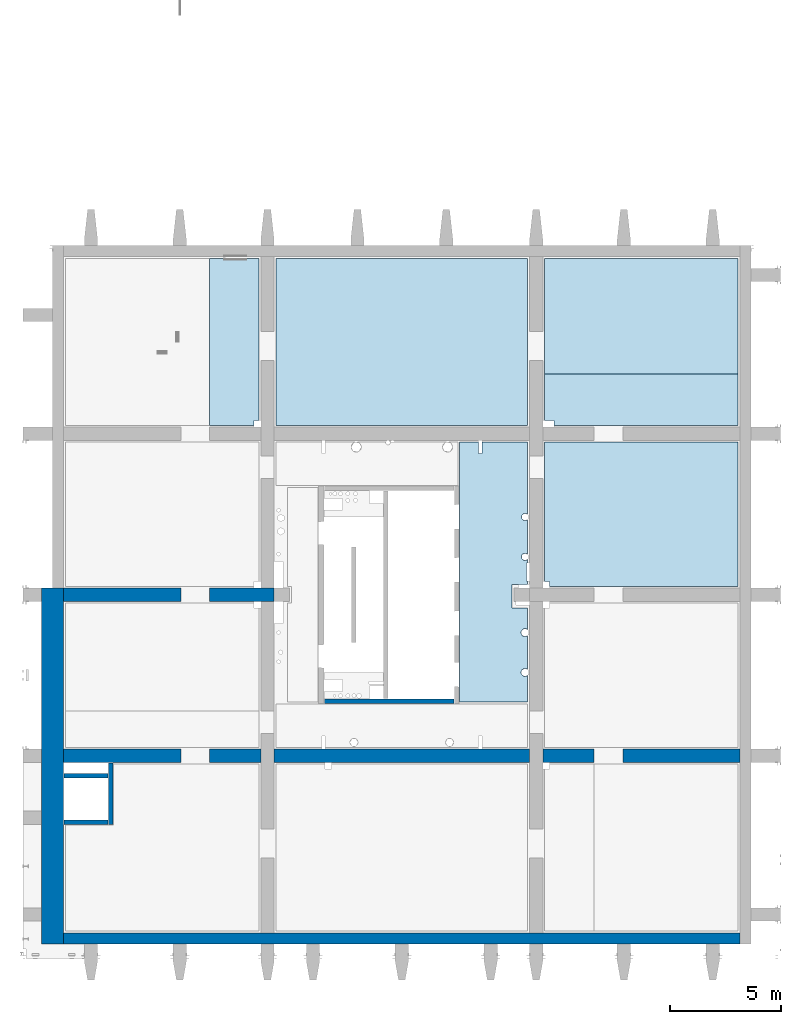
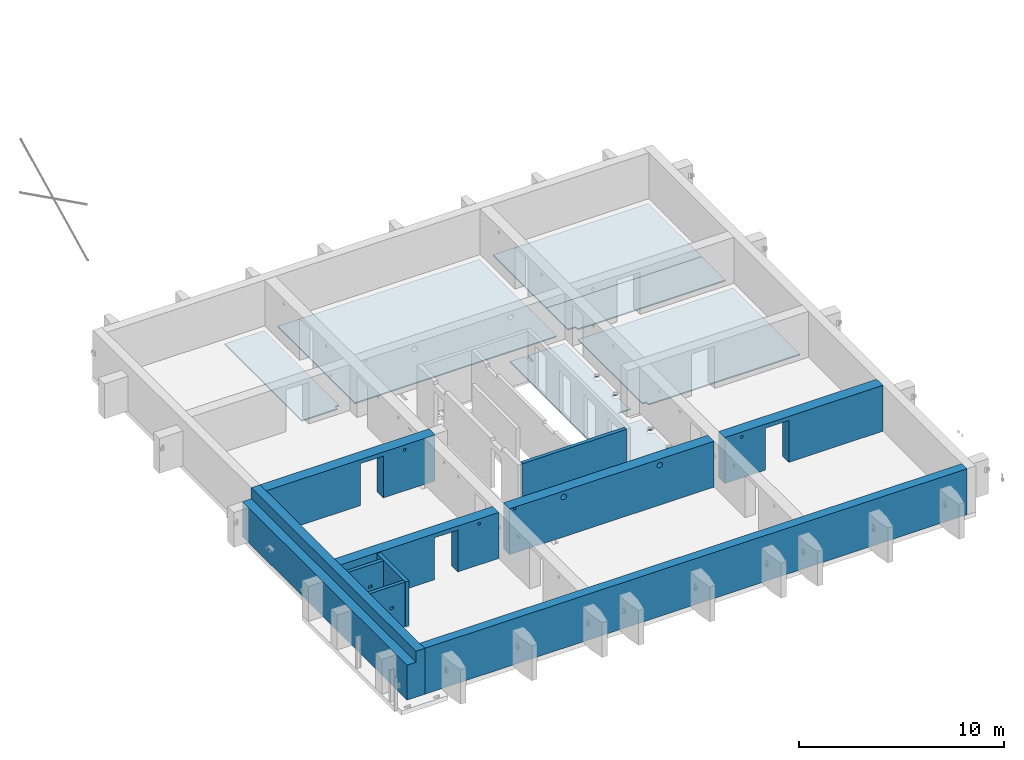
# One storey, part 18 of 22: 8 walls, 6 slabs, 48 openings.
"""IFC2X3 building model written with IfcOpenShell, lengths in millimetres."""

from ifc_helpers import new_model, entity, si_unit, converted_unit, derived_unit, direction, frame, frame_2d, origin, origin_2d_with_axis, place, context, subcontext, project, spatial, polyline, rectangle, circle, outline, extrude, material, layer, layer_set, layer_usage, type_object, element, save


model = new_model("IFC2X3")

# Units and contexts
model_context = context("Model", 3, precision=0.01, world=origin(), true_north=direction((6.12303176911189e-17, 1.0)))
body_context = subcontext(model_context, "Body", "Model", "MODEL_VIEW")
ifc_project = project(units=[si_unit("LENGTHUNIT", "METRE", prefix="MILLI"), si_unit("AREAUNIT", "SQUARE_METRE"), si_unit("VOLUMEUNIT", "CUBIC_METRE"), converted_unit("PLANEANGLEUNIT", "DEGREE", entity("IfcRatioMeasure", 0.0174532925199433), si_unit("PLANEANGLEUNIT", "RADIAN"), dimensions=[0, 0, 0, 0, 0, 0, 0]), si_unit("MASSUNIT", "GRAM", prefix="KILO"), derived_unit("MASSDENSITYUNIT", [(si_unit("MASSUNIT", "GRAM", prefix="KILO"), 1), (si_unit("LENGTHUNIT", "METRE"), -3)]), si_unit("TIMEUNIT", "SECOND"), si_unit("FREQUENCYUNIT", "HERTZ"), si_unit("THERMODYNAMICTEMPERATUREUNIT", "DEGREE_CELSIUS"), derived_unit("THERMALTRANSMITTANCEUNIT", [(si_unit("MASSUNIT", "GRAM", prefix="KILO"), 1), (si_unit("THERMODYNAMICTEMPERATUREUNIT", "KELVIN"), -1), (si_unit("TIMEUNIT", "SECOND"), -3)]), derived_unit("VOLUMETRICFLOWRATEUNIT", [(si_unit("LENGTHUNIT", "METRE"), 3), (si_unit("TIMEUNIT", "SECOND"), -1)]), si_unit("ELECTRICCURRENTUNIT", "AMPERE"), si_unit("ELECTRICVOLTAGEUNIT", "VOLT"), si_unit("POWERUNIT", "WATT"), si_unit("FORCEUNIT", "NEWTON", prefix="KILO"), si_unit("ILLUMINANCEUNIT", "LUX"), si_unit("LUMINOUSFLUXUNIT", "LUMEN"), si_unit("LUMINOUSINTENSITYUNIT", "CANDELA"), derived_unit("USERDEFINED", [(si_unit("MASSUNIT", "GRAM", prefix="KILO"), -1), (si_unit("LENGTHUNIT", "METRE"), -2), (si_unit("TIMEUNIT", "SECOND"), 3), (si_unit("LUMINOUSFLUXUNIT", "LUMEN"), 1)]), derived_unit("LINEARVELOCITYUNIT", [(si_unit("LENGTHUNIT", "METRE"), 1), (si_unit("TIMEUNIT", "SECOND"), -1)]), si_unit("PRESSUREUNIT", "PASCAL"), derived_unit("USERDEFINED", [(si_unit("LENGTHUNIT", "METRE"), -2), (si_unit("MASSUNIT", "GRAM", prefix="KILO"), 1), (si_unit("TIMEUNIT", "SECOND"), -2)])], contexts=[model_context])

# Site, building, storey
site_placement = place(None, origin())
site = spatial("IfcSite", under=ifc_project, at=site_placement, Name="Default", CompositionType="ELEMENT")
building_placement = place(site_placement, origin())
building = spatial("IfcBuilding", under=site, at=building_placement, Name="niet gebruiken", CompositionType="ELEMENT")
storey_placement = place(building_placement, frame((0.0, 0.0, 15000.0)))
storey = spatial("IfcBuildingStorey", under=building, at=storey_placement, Name="04 vierde verdieping", CompositionType="ELEMENT", Elevation=15000.0)

# Slab, openings
ifc_material_1 = material(Name="NLRS_f2_beton prefab")
ifc_layer_1 = layer(ifc_material_1, 70.0)
ifc_layer_set_1 = layer_set([ifc_layer_1], Name="Floor:NLRS_23.21_FL_breedplaat d=70_gen")
ifc_layer_usage_1 = layer_usage(ifc_layer_set_1, "AXIS3", "POSITIVE", 0.0)
slab_1_placement = place(storey_placement, frame((133100.0, 25130.0, -360.0)))
slab_1 = element("IfcSlab", 1, at=slab_1_placement, inside=storey, material=ifc_layer_usage_1, Name="Floor:NLRS_23.21_FL_breedplaat d=70_gen", ObjectType="Floor:NLRS_23.21_FL_breedplaat d=70_gen", PredefinedType="FLOOR", context=body_context, shape_type="SweptSolid", body=[
    extrude(rectangle(XDim=7520.00000000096, YDim=2220.0, at=frame_2d((10790.0, 0.0), x_axis=(0.0, 1.0))), frame((11900.0, 3760.0, 70.0), z_axis=(0.0, 0.0, -1.0), x_axis=(-1.0, 0.0, 0.0)), (0.0, 0.0, 1.0), 69.9999999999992),
])
placement_1 = place(slab_1_placement, origin())
element("IfcOpeningElement", 2, at=placement_1, cuts=slab_1, ObjectType="Opening", context=body_context, shape_type="SweptSolid", body=[
    extrude(rectangle(XDim=300.000000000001, YDim=300.000000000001, at=origin_2d_with_axis()), frame((2150.0, 70.0, 0.0), z_axis=(0.0, 0.0, 1.0), x_axis=(0.0, 1.0, 0.0)), (0.0, 0.0, 1.0), 269.999999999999),
])
placement_2 = place(slab_1_placement, origin())
element("IfcOpeningElement", 3, at=placement_2, cuts=slab_1, ObjectType="Opening", context=body_context, shape_type="SweptSolid", body=[
    extrude(rectangle(XDim=269.999999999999, YDim=1200.0, at=origin_2d_with_axis()), frame((14700.0, 5355.0, 100.0), z_axis=(0.0, 0.0, 1.0), x_axis=(0.0, -1.0, 0.0)), (0.0, 0.0, 1.0), 100.000000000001),
])
placement_3 = place(slab_1_placement, origin())
element("IfcOpeningElement", 4, at=placement_3, cuts=slab_1, ObjectType="Opening", context=body_context, shape_type="SweptSolid", body=[
    extrude(rectangle(XDim=269.999999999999, YDim=1200.0, at=origin_2d_with_axis()), frame((2600.0, 4855.0, 100.0), z_axis=(0.0, 0.0, 1.0), x_axis=(0.0, -1.0, 0.0)), (0.0, 0.0, 1.0), 99.9999999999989),
])

slab_2_placement = place(storey_placement, frame((133100.0, 25130.0, -360.0)))
slab_2 = element("IfcSlab", 5, at=slab_2_placement, inside=storey, material=ifc_layer_usage_1, Name="Floor:NLRS_23.21_FL_breedplaat d=70_gen:2", ObjectType="Floor:NLRS_23.21_FL_breedplaat d=70_gen", PredefinedType="FLOOR", context=body_context, shape_type="SweptSolid", body=[
    extrude(rectangle(XDim=8719.99999999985, YDim=5210.00000000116, at=frame_2d((-7540.0, 1155.0), x_axis=(-1.0, 0.0))), frame((11900.0, 3760.0, 70.0), z_axis=(0.0, 0.0, -1.0), x_axis=(-1.0, 0.0, 0.0)), (0.0, 0.0, 1.0), 69.9999999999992),
])
element("IfcOpeningElement", 6, at=placement_1, cuts=slab_2, ObjectType="Opening", context=body_context, shape_type="SweptSolid", body=[
    extrude(rectangle(XDim=300.000000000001, YDim=300.000000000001, at=origin_2d_with_axis()), frame((2150.0, 70.0, 0.0), z_axis=(0.0, 0.0, 1.0), x_axis=(0.0, 1.0, 0.0)), (0.0, 0.0, 1.0), 269.999999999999),
])
element("IfcOpeningElement", 7, at=placement_2, cuts=slab_2, ObjectType="Opening", context=body_context, shape_type="SweptSolid", body=[
    extrude(rectangle(XDim=269.999999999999, YDim=1200.0, at=origin_2d_with_axis()), frame((14700.0, 5355.0, 100.0), z_axis=(0.0, 0.0, 1.0), x_axis=(0.0, -1.0, 0.0)), (0.0, 0.0, 1.0), 100.000000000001),
])
element("IfcOpeningElement", 8, at=placement_3, cuts=slab_2, ObjectType="Opening", context=body_context, shape_type="SweptSolid", body=[
    extrude(rectangle(XDim=269.999999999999, YDim=1200.0, at=origin_2d_with_axis()), frame((2600.0, 4855.0, 100.0), z_axis=(0.0, 0.0, 1.0), x_axis=(0.0, -1.0, 0.0)), (0.0, 0.0, 1.0), 99.9999999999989),
])

slab_3_placement = place(storey_placement, frame((133100.0, 25130.0, -360.0)))
slab_3 = element("IfcSlab", 9, at=slab_3_placement, inside=storey, material=ifc_layer_usage_1, Name="Floor:NLRS_23.21_FL_breedplaat d=70_gen:3", ObjectType="Floor:NLRS_23.21_FL_breedplaat d=70_gen", PredefinedType="FLOOR", context=body_context, shape_type="SweptSolid", body=[
    extrude(rectangle(XDim=11340.0000000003, YDim=7520.00000000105, at=frame_2d((3250.0, 0.0), x_axis=(1.0, 0.0))), frame((11900.0, 3760.0, 70.0), z_axis=(0.0, 0.0, -1.0), x_axis=(-1.0, 0.0, 0.0)), (0.0, 0.0, 1.0), 69.9999999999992),
])
element("IfcOpeningElement", 10, at=placement_1, cuts=slab_3, ObjectType="Opening", context=body_context, shape_type="SweptSolid", body=[
    extrude(rectangle(XDim=300.000000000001, YDim=300.000000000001, at=origin_2d_with_axis()), frame((2150.0, 70.0, 0.0), z_axis=(0.0, 0.0, 1.0), x_axis=(0.0, 1.0, 0.0)), (0.0, 0.0, 1.0), 269.999999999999),
])
element("IfcOpeningElement", 11, at=placement_2, cuts=slab_3, ObjectType="Opening", context=body_context, shape_type="SweptSolid", body=[
    extrude(rectangle(XDim=269.999999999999, YDim=1200.0, at=origin_2d_with_axis()), frame((14700.0, 5355.0, 100.0), z_axis=(0.0, 0.0, 1.0), x_axis=(0.0, -1.0, 0.0)), (0.0, 0.0, 1.0), 100.000000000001),
])
element("IfcOpeningElement", 12, at=placement_3, cuts=slab_3, ObjectType="Opening", context=body_context, shape_type="SweptSolid", body=[
    extrude(rectangle(XDim=269.999999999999, YDim=1200.0, at=origin_2d_with_axis()), frame((2600.0, 4855.0, 100.0), z_axis=(0.0, 0.0, 1.0), x_axis=(0.0, -1.0, 0.0)), (0.0, 0.0, 1.0), 99.9999999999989),
])

ifc_layer_usage_2 = layer_usage(ifc_layer_set_1, "AXIS3", "POSITIVE", 0.0)
slab_4_placement = place(storey_placement, frame((148180.0, 2350.0, -360.0)))
slab_4 = element("IfcSlab", 13, at=slab_4_placement, inside=storey, material=ifc_layer_usage_2, Name="Floor:NLRS_23.21_FL_breedplaat d=70_gen", ObjectType="Floor:NLRS_23.21_FL_breedplaat d=70_gen", PredefinedType="FLOOR", context=body_context, shape_type="SweptSolid", body=[
    extrude(rectangle(XDim=8719.99999999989, YDim=2310.0000000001, at=frame_2d((0.0, 11390.0), x_axis=(-1.0, 0.0))), frame((4360.0, 12545.0, 70.0), z_axis=(0.0, 0.0, -1.0), x_axis=(-1.0, 0.0, 0.0)), (0.0, 0.0, 1.0), 69.9999999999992),
])
placement_4 = place(slab_4_placement, origin())
element("IfcOpeningElement", 14, at=placement_4, cuts=slab_4, ObjectType="Opening", context=body_context, shape_type="SweptSolid", body=[
    extrude(rectangle(XDim=500.000000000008, YDim=300.000000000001, at=origin_2d_with_axis()), frame((170.0, 22850.0, 0.0)), (0.0, 0.0, 1.0), 269.999999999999),
])
placement_5 = place(slab_4_placement, origin())
element("IfcOpeningElement", 15, at=placement_5, cuts=slab_4, ObjectType="Opening", context=body_context, shape_type="SweptSolid", body=[
    extrude(rectangle(XDim=300.000000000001, YDim=300.000000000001, at=origin_2d_with_axis()), frame((70.0, 15600.0, 0.0), z_axis=(0.0, 0.0, 1.0), x_axis=(0.0, 1.0, 0.0)), (0.0, 0.0, 1.0), 269.999999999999),
])
placement_6 = place(slab_4_placement, origin())
element("IfcOpeningElement", 16, at=placement_6, cuts=slab_4, ObjectType="Opening", context=body_context, shape_type="SweptSolid", body=[
    extrude(rectangle(XDim=300.000000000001, YDim=300.000000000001, at=origin_2d_with_axis()), frame((70.0, 14700.0, 0.0), z_axis=(0.0, 0.0, 1.0), x_axis=(0.0, 1.0, 0.0)), (0.0, 0.0, 1.0), 269.999999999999),
])

slab_5_placement = place(storey_placement, frame((148180.0, 2350.0, -360.0)))
slab_5 = element("IfcSlab", 17, at=slab_5_placement, inside=storey, material=ifc_layer_usage_2, Name="Floor:NLRS_23.21_FL_breedplaat d=70_gen:4", ObjectType="Floor:NLRS_23.21_FL_breedplaat d=70_gen", PredefinedType="FLOOR", context=body_context, shape_type="SweptSolid", body=[
    extrude(rectangle(XDim=8719.99999999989, YDim=6489.99999999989, at=frame_2d((0.0, 6230.0), x_axis=(1.0, 0.0))), frame((4360.0, 12545.0, 70.0), z_axis=(0.0, 0.0, -1.0), x_axis=(-1.0, 0.0, 0.0)), (0.0, 0.0, 1.0), 69.9999999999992),
])
element("IfcOpeningElement", 18, at=placement_4, cuts=slab_5, ObjectType="Opening", context=body_context, shape_type="SweptSolid", body=[
    extrude(rectangle(XDim=500.000000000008, YDim=300.000000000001, at=origin_2d_with_axis()), frame((170.0, 22850.0, 0.0)), (0.0, 0.0, 1.0), 269.999999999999),
])
element("IfcOpeningElement", 19, at=placement_5, cuts=slab_5, ObjectType="Opening", context=body_context, shape_type="SweptSolid", body=[
    extrude(rectangle(XDim=300.000000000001, YDim=300.000000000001, at=origin_2d_with_axis()), frame((70.0, 15600.0, 0.0), z_axis=(0.0, 0.0, 1.0), x_axis=(0.0, 1.0, 0.0)), (0.0, 0.0, 1.0), 269.999999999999),
])
element("IfcOpeningElement", 20, at=placement_6, cuts=slab_5, ObjectType="Opening", context=body_context, shape_type="SweptSolid", body=[
    extrude(rectangle(XDim=300.000000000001, YDim=300.000000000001, at=origin_2d_with_axis()), frame((70.0, 14700.0, 0.0), z_axis=(0.0, 0.0, 1.0), x_axis=(0.0, 1.0, 0.0)), (0.0, 0.0, 1.0), 269.999999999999),
])

ifc_layer_usage_3 = layer_usage(ifc_layer_set_1, "AXIS3", "POSITIVE", 0.0)
slab_6_placement = place(storey_placement, frame((136080.0, 10630.0, -330.0)))
slab_6 = element("IfcSlab", 21, at=slab_6_placement, inside=storey, material=ifc_layer_usage_3, Name="Floor:NLRS_23.21_FL_breedplaat d=70_gen:4", ObjectType="Floor:NLRS_23.21_FL_breedplaat d=70_gen", PredefinedType="FLOOR", context=body_context, shape_type="SweptSolid", body=[
    extrude(outline(polyline([(-2600.0, -4840.0), (-2600.0, 6870.0), (-5670.0, 6870.0), (-5670.0, 450.0), (-4970.0, 450.0), (-4970.0, -600.0), (-5670.0, -600.0), (-5670.0, -4840.0), (-2600.0, -4840.0)])), frame((5670.0, 6870.0, 70.0), z_axis=(0.0, 0.0, -1.0), x_axis=(-1.0, 0.0, 0.0)), (0.0, 0.0, 1.0), 69.9999999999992),
])
placement_7 = place(storey_placement, frame((136080.0, 10630.0, -330.0)))
opening_16_placement = place(placement_7, origin())
element("IfcOpeningElement", 22, at=opening_16_placement, cuts=slab_6, ObjectType="Opening", context=body_context, shape_type="SweptSolid", body=[
    extrude(rectangle(XDim=800.0, YDim=140.000000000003, at=origin_2d_with_axis()), frame((11350.0, 7894.49999999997, 0.0), z_axis=(0.0, 0.0, 1.0), x_axis=(0.0, -1.0, 0.0)), (0.0, 0.0, 1.0), 240.0),
])
opening_17_placement = place(placement_7, origin())
element("IfcOpeningElement", 23, at=opening_17_placement, cuts=slab_6, ObjectType="Opening", context=body_context, shape_type="SweptSolid", body=[
    extrude(rectangle(XDim=150.000000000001, YDim=590.000000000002, at=origin_2d_with_axis()), frame((2145.0, 215.0, 0.0)), (0.0, 0.0, 1.0), 240.0),
])
opening_18_placement = place(placement_7, origin())
element("IfcOpeningElement", 24, at=opening_18_placement, cuts=slab_6, ObjectType="Opening", context=body_context, shape_type="SweptSolid", body=[
    extrude(rectangle(XDim=150.000000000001, YDim=590.000000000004, at=origin_2d_with_axis()), frame((2145.0, 13525.207422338, 0.0)), (0.0, 0.0, 1.0), 240.0),
])
opening_19_placement = place(placement_7, origin())
element("IfcOpeningElement", 25, at=opening_19_placement, cuts=slab_6, ObjectType="Opening", context=body_context, shape_type="SweptSolid", body=[
    extrude(circle(Radius=225.0, at=origin_2d_with_axis()), frame((3620.0, 13520.0, 0.0), z_axis=(0.0, 0.0, 1.0), x_axis=(-1.0, 0.0, 0.0)), (0.0, 0.0, 1.0), 240.0),
])
opening_20_placement = place(placement_7, origin())
element("IfcOpeningElement", 26, at=opening_20_placement, cuts=slab_6, ObjectType="Opening", context=body_context, shape_type="SweptSolid", body=[
    extrude(circle(Radius=225.0, at=origin_2d_with_axis()), frame((7730.0, 13520.0, 0.0), z_axis=(0.0, 0.0, 1.0), x_axis=(-1.0, 0.0, 0.0)), (0.0, 0.0, 1.0), 240.0),
])
opening_21_placement = place(placement_7, origin())
element("IfcOpeningElement", 27, at=opening_21_placement, cuts=slab_6, ObjectType="Opening", context=body_context, shape_type="SweptSolid", body=[
    extrude(rectangle(XDim=150.000000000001, YDim=600.000000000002, at=origin_2d_with_axis()), frame((9195.0218950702, 13520.0, 0.0)), (0.0, 0.0, 1.0), 240.0),
])
opening_22_placement = place(placement_7, origin())
element("IfcOpeningElement", 28, at=opening_22_placement, cuts=slab_6, ObjectType="Opening", context=body_context, shape_type="SweptSolid", body=[
    extrude(rectangle(XDim=490.00000000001, YDim=150.000000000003, at=origin_2d_with_axis()), frame((11175.0, 7245.0, 0.0)), (0.0, 0.0, 1.0), 240.0),
])
opening_23_placement = place(placement_7, origin())
element("IfcOpeningElement", 29, at=opening_23_placement, cuts=slab_6, ObjectType="Opening", context=body_context, shape_type="SweptSolid", body=[
    extrude(rectangle(XDim=150.000000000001, YDim=590.000000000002, at=origin_2d_with_axis()), frame((9195.0, 215.0, 0.0)), (0.0, 0.0, 1.0), 240.0),
])
opening_24_placement = place(placement_7, origin())
element("IfcOpeningElement", 30, at=opening_24_placement, cuts=slab_6, ObjectType="Opening", context=body_context, shape_type="SweptSolid", body=[
    extrude(circle(Radius=100.0, at=origin_2d_with_axis()), frame((5044.86122070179, 13719.9503906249, 0.0), z_axis=(0.0, 0.0, 1.0), x_axis=(-1.0, 0.0, 0.0)), (0.0, 0.0, 1.0), 240.0),
])
opening_25_placement = place(placement_7, origin())
element("IfcOpeningElement", 31, at=opening_25_placement, cuts=slab_6, ObjectType="Opening", context=body_context, shape_type="SweptSolid", body=[
    extrude(circle(Radius=177.5, at=origin_2d_with_axis()), frame((11219.0502495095, 3370.0, 0.0), z_axis=(0.0, 0.0, 1.0), x_axis=(0.0, 1.0, 0.0)), (0.0, 0.0, 1.0), 240.0),
])
opening_26_placement = place(placement_7, origin())
element("IfcOpeningElement", 32, at=opening_26_placement, cuts=slab_6, ObjectType="Opening", context=body_context, shape_type="SweptSolid", body=[
    extrude(circle(Radius=177.5, at=origin_2d_with_axis()), frame((11220.0443647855, 5165.0, 0.0), z_axis=(0.0, 0.0, 1.0), x_axis=(0.0, 1.0, 0.0)), (0.0, 0.0, 1.0), 240.0),
])
opening_27_placement = place(placement_7, origin())
element("IfcOpeningElement", 33, at=opening_27_placement, cuts=slab_6, ObjectType="Opening", context=body_context, shape_type="SweptSolid", body=[
    extrude(circle(Radius=160.0, at=origin_2d_with_axis()), frame((11220.0, 8574.95038231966, 0.0), z_axis=(0.0, 0.0, 1.0), x_axis=(0.0, 1.0, 0.0)), (0.0, 0.0, 1.0), 240.0),
])
opening_28_placement = place(placement_7, origin())
element("IfcOpeningElement", 34, at=opening_28_placement, cuts=slab_6, ObjectType="Opening", context=body_context, shape_type="SweptSolid", body=[
    extrude(circle(Radius=160.0, at=origin_2d_with_axis()), frame((11220.0, 10370.0, 0.0), z_axis=(0.0, 0.0, 1.0), x_axis=(0.0, 1.0, 0.0)), (0.0, 0.0, 1.0), 240.0),
])
opening_29_placement = place(placement_7, origin())
element("IfcOpeningElement", 35, at=opening_29_placement, cuts=slab_6, ObjectType="Opening", context=body_context, shape_type="SweptSolid", body=[
    extrude(circle(Radius=177.5, at=origin_2d_with_axis()), frame((3515.0, 220.0, 0.0), z_axis=(0.0, 0.0, 1.0), x_axis=(-1.0, 0.0, 0.0)), (0.0, 0.0, 1.0), 240.0),
])
opening_30_placement = place(placement_7, origin())
element("IfcOpeningElement", 36, at=opening_30_placement, cuts=slab_6, ObjectType="Opening", context=body_context, shape_type="SweptSolid", body=[
    extrude(circle(Radius=177.5, at=origin_2d_with_axis()), frame((7820.0, 220.0, 0.0), z_axis=(0.0, 0.0, 1.0), x_axis=(-1.0, 0.0, 0.0)), (0.0, 0.0, 1.0), 240.0),
])
opening_31_placement = place(placement_7, origin())
element("IfcOpeningElement", 37, at=opening_31_placement, cuts=slab_6, ObjectType="Opening", context=body_context, shape_type="SweptSolid", body=[
    extrude(rectangle(XDim=600.000000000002, YDim=155.000000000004, at=origin_2d_with_axis()), frame((11120.0, 6492.49999999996, 0.0)), (0.0, 0.0, 1.0), 240.0),
])

# Wall, openings
ifc_material_2 = material(Name="NLRS_f2_beton ihwg")
ifc_layer_2 = layer(ifc_material_2, 600.0)
ifc_layer_set_2 = layer_set([ifc_layer_2], Name="Basic Wall:NLRS_22.21_WA_beton ihwg d=600_gen")
ifc_layer_usage_4 = layer_usage(ifc_layer_set_2, "AXIS2", "NEGATIVE", 300.0)
wall_type_1 = type_object("IfcWallType", Name="Basic Wall:NLRS_22.21_WA_beton ihwg d=600_gen", PredefinedType="STANDARD", material=ifc_layer_set_2)
wall_1_placement = place(storey_placement, frame((126520.0, 17500.0, -90.0)))
wall_1 = element("IfcWallStandardCase", 38, at=wall_1_placement, inside=storey, type_object=wall_type_1, material=ifc_layer_usage_4, Name="Basic Wall:NLRS_22.21_WA_beton ihwg d=600_gen", ObjectType="Basic Wall:NLRS_22.21_WA_beton ihwg d=600_gen", context=body_context, shape_type="SweptSolid", body=[
    extrude(rectangle(XDim=9479.99999999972, YDim=599.999999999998, at=frame_2d((4739.99999999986, -2.27373675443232e-13), x_axis=(-1.0, 0.0))), origin(), (0.0, 0.0, 1.0), 2730.0),
])
opening_32_placement = place(wall_1_placement, origin())
element("IfcOpeningElement", 39, at=opening_32_placement, cuts=wall_1, Name="Basic Wall:NLRS_22.21_WA_beton ihwg d=600_gen", ObjectType="Opening", context=body_context, shape_type="SweptSolid", body=[
    extrude(rectangle(XDim=2490.0, YDim=1300.00000000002, at=frame_2d((0.0, -1.73372427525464e-11), x_axis=(1.0, 0.0))), frame((5930.0, -300.0, 1245.0), z_axis=(0.0, 1.0, 0.0), x_axis=(0.0, 0.0, -1.0)), (0.0, 0.0, 1.0), 600.000000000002),
])
opening_33_placement = place(wall_1_placement, origin())
element("IfcOpeningElement", 40, at=opening_33_placement, cuts=wall_1, Name="Basic Wall:NLRS_22.21_WA_beton ihwg d=600_gen", ObjectType="Opening", context=body_context, shape_type="SweptSolid", body=[
    extrude(circle(Radius=80.0, at=origin_2d_with_axis()), frame((7780.0, -300.0, 2440.0), z_axis=(0.0, 1.0, 0.0), x_axis=(1.0, 0.0, 0.0)), (0.0, 0.0, 1.0), 600.0),
])

ifc_layer_usage_5 = layer_usage(ifc_layer_set_2, "AXIS2", "NEGATIVE", 300.0)
wall_2_placement = place(storey_placement, frame((126520.0, 10250.0, -90.0)))
wall_2 = element("IfcWallStandardCase", 41, at=wall_2_placement, inside=storey, type_object=wall_type_1, material=ifc_layer_usage_5, Name="Basic Wall:NLRS_22.21_WA_beton ihwg d=600_gen", ObjectType="Basic Wall:NLRS_22.21_WA_beton ihwg d=600_gen", context=body_context, shape_type="SweptSolid", body=[
    extrude(rectangle(XDim=30459.9999999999, YDim=600.000000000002, at=frame_2d((15230.0, 5.40012479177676e-13), x_axis=(-1.0, 0.0))), origin(), (0.0, 0.0, 1.0), 2730.0),
])
opening_34_placement = place(storey_placement, frame((126520.0, 10250.0, -90.0)))
element("IfcOpeningElement", 42, at=opening_34_placement, cuts=wall_2, Name="Basic Wall:NLRS_22.21_WA_beton ihwg d=600_gen:1", ObjectType="Opening", context=body_context, shape_type="SweptSolid", body=[
    extrude(rectangle(XDim=2730.0, YDim=600.0, at=frame_2d((-1.13686837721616e-12, 1.08002495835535e-12), x_axis=(1.0, 0.0))), frame((8880.0, 0.0, 1365.0), z_axis=(1.0, 0.0, 0.0), x_axis=(0.0, 0.0, -1.0)), (0.0, 0.0, 1.0), 600.000000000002),
])
opening_35_placement = place(storey_placement, frame((126520.0, 10250.0, -90.0)))
element("IfcOpeningElement", 43, at=opening_35_placement, cuts=wall_2, Name="Basic Wall:NLRS_22.21_WA_beton ihwg d=600_gen:2", ObjectType="Opening", context=body_context, shape_type="SweptSolid", body=[
    extrude(rectangle(XDim=2730.0, YDim=600.0, at=frame_2d((-1.13686837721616e-12, 0.0), x_axis=(1.0, 0.0))), frame((20980.0, 0.0, 1365.0), z_axis=(1.0, 0.0, 0.0), x_axis=(0.0, 0.0, -1.0)), (0.0, 0.0, 1.0), 600.000000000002),
])
opening_36_placement = place(wall_2_placement, origin())
element("IfcOpeningElement", 44, at=opening_36_placement, cuts=wall_2, Name="Basic Wall:NLRS_22.21_WA_beton ihwg d=600_gen", ObjectType="Opening", context=body_context, shape_type="SweptSolid", body=[
    extrude(rectangle(XDim=2490.0, YDim=1300.0, at=frame_2d((8.69704308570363e-12, 0.0), x_axis=(0.0, 1.0))), frame((24530.0, -300.0, 1245.0), z_axis=(0.0, 1.0, 0.0), x_axis=(1.0, 0.0, 0.0)), (0.0, 0.0, 1.0), 600.000000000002),
])
opening_37_placement = place(wall_2_placement, origin())
element("IfcOpeningElement", 45, at=opening_37_placement, cuts=wall_2, Name="Basic Wall:NLRS_22.21_WA_beton ihwg d=600_gen", ObjectType="Opening", context=body_context, shape_type="SweptSolid", body=[
    extrude(rectangle(XDim=2490.00000000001, YDim=1300.0, at=frame_2d((1.02318153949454e-12, -8.69704308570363e-12), x_axis=(1.0, 0.0))), frame((5930.0, -300.0, 1245.0), z_axis=(0.0, 1.0, 0.0), x_axis=(0.0, 0.0, -1.0)), (0.0, 0.0, 1.0), 599.999999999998),
])
opening_38_placement = place(wall_2_placement, origin())
element("IfcOpeningElement", 46, at=opening_38_placement, cuts=wall_2, Name="Basic Wall:NLRS_22.21_WA_beton ihwg d=600_gen", ObjectType="Opening", context=body_context, shape_type="SweptSolid", body=[
    extrude(circle(Radius=80.0, at=origin_2d_with_axis()), frame((7780.0, -300.0, 2440.0), z_axis=(0.0, 1.0, 0.0), x_axis=(-1.0, 0.0, 0.0)), (0.0, 0.0, 1.0), 600.0),
])
opening_39_placement = place(wall_2_placement, origin())
element("IfcOpeningElement", 47, at=opening_39_placement, cuts=wall_2, Name="Basic Wall:NLRS_22.21_WA_beton ihwg d=600_gen", ObjectType="Opening", context=body_context, shape_type="SweptSolid", body=[
    extrude(circle(Radius=157.5, at=origin_2d_with_axis()), frame((12529.9996159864, -300.0, 2380.0), z_axis=(0.0, 1.0, 0.0), x_axis=(-1.0, 0.0, 0.0)), (0.0, 0.0, 1.0), 600.0),
])
opening_40_placement = place(wall_2_placement, origin())
element("IfcOpeningElement", 48, at=opening_40_placement, cuts=wall_2, Name="Basic Wall:NLRS_22.21_WA_beton ihwg d=600_gen", ObjectType="Opening", context=body_context, shape_type="SweptSolid", body=[
    extrude(circle(Radius=157.5, at=origin_2d_with_axis()), frame((17929.9996159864, -300.0, 2380.0), z_axis=(0.0, 1.0, 0.0), x_axis=(-1.0, 0.0, 0.0)), (0.0, 0.0, 1.0), 600.0),
])
opening_41_placement = place(wall_2_placement, origin())
element("IfcOpeningElement", 49, at=opening_41_placement, cuts=wall_2, Name="Basic Wall:NLRS_22.21_WA_beton ihwg d=600_gen", ObjectType="Opening", context=body_context, shape_type="SweptSolid", body=[
    extrude(circle(Radius=80.0, at=origin_2d_with_axis()), frame((22530.0, -300.0, 2440.0), z_axis=(0.0, 1.0, 0.0), x_axis=(-1.0, 0.0, 0.0)), (0.0, 0.0, 1.0), 600.0),
])
opening_42_placement = place(wall_2_placement, origin())
element("IfcOpeningElement", 50, at=opening_42_placement, cuts=wall_2, Name="Basic Wall:NLRS_22.21_WA_beton ihwg d=600_gen", ObjectType="Opening", context=body_context, shape_type="SweptSolid", body=[
    extrude(circle(Radius=80.0, at=origin_2d_with_axis()), frame((9780.0, -300.0, 2640.0), z_axis=(0.0, 1.0, 0.0), x_axis=(-1.0, 0.0, 0.0)), (0.0, 0.0, 1.0), 600.0),
])

# Wall
ifc_layer_3 = layer(ifc_material_1, 200.0)
ifc_layer_set_3 = layer_set([ifc_layer_3], Name="Basic Wall:NLRS_22.21_WA_beton prefab d=200_gen")
ifc_layer_usage_6 = layer_usage(ifc_layer_set_3, "AXIS2", "NEGATIVE", 100.0)
wall_type_2 = type_object("IfcWallType", Name="Basic Wall:NLRS_22.21_WA_beton prefab d=200_gen", PredefinedType="STANDARD", material=ifc_layer_set_3)
wall_3_placement = place(storey_placement, frame((128640.0, 7150.0, -50.0), z_axis=(0.0, 0.0, 1.0), x_axis=(0.0, 1.0, 0.0)))
element("IfcWallStandardCase", 51, at=wall_3_placement, inside=storey, type_object=wall_type_2, material=ifc_layer_usage_6, Name="Basic Wall:NLRS_22.21_WA_beton prefab d=200_gen", ObjectType="Basic Wall:NLRS_22.21_WA_beton prefab d=200_gen", context=body_context, shape_type="SweptSolid", body=[
    extrude(rectangle(XDim=2779.99999999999, YDim=199.999999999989, at=frame_2d((1390.0, 0.0), x_axis=(-1.0, 0.0))), origin(), (0.0, 0.0, 1.0), 2660.0),
])

# Wall, openings
ifc_layer_usage_7 = layer_usage(ifc_layer_set_3, "AXIS2", "NEGATIVE", 100.0)
wall_4_placement = place(storey_placement, frame((126540.0, 7250.0, -50.0)))
wall_4 = element("IfcWallStandardCase", 52, at=wall_4_placement, inside=storey, type_object=wall_type_2, material=ifc_layer_usage_7, Name="Basic Wall:NLRS_22.21_WA_beton prefab d=200_gen", ObjectType="Basic Wall:NLRS_22.21_WA_beton prefab d=200_gen", context=body_context, shape_type="SweptSolid", body=[
    extrude(rectangle(XDim=1979.99999999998, YDim=200.0, at=frame_2d((989.999999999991, -2.98427949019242e-13), x_axis=(-1.0, 0.0))), origin(), (0.0, 0.0, 1.0), 2660.0),
])
opening_43_placement = place(wall_4_placement, origin())
element("IfcOpeningElement", 53, at=opening_43_placement, cuts=wall_4, Name="Basic Wall:NLRS_22.21_WA_beton prefab d=200_gen", ObjectType="Opening", context=body_context, shape_type="SweptSolid", body=[
    extrude(rectangle(XDim=140.000000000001, YDim=200.000000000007, at=frame_2d((1.08002495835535e-12, 8.66862137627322e-12), x_axis=(1.0, 0.0))), frame((1235.0, -100.0, 1380.0), z_axis=(0.0, 1.0, 0.0), x_axis=(0.0, 0.0, -1.0)), (0.0, 0.0, 1.0), 199.999999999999),
])
opening_44_placement = place(wall_4_placement, origin())
element("IfcOpeningElement", 54, at=opening_44_placement, cuts=wall_4, Name="Basic Wall:NLRS_22.21_WA_beton prefab d=200_gen", ObjectType="Opening", context=body_context, shape_type="SweptSolid", body=[
    extrude(rectangle(XDim=140.000000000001, YDim=200.000000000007, at=frame_2d((-1.08002495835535e-12, 8.66862137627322e-12), x_axis=(1.0, 0.0))), frame((285.0, -100.0, 1380.0), z_axis=(0.0, 1.0, 0.0), x_axis=(0.0, 0.0, -1.0)), (0.0, 0.0, 1.0), 199.999999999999),
])

ifc_layer_usage_8 = layer_usage(ifc_layer_set_3, "AXIS2", "NEGATIVE", 100.0)
wall_5_placement = place(storey_placement, frame((126540.0, 9350.0, -50.0)))
wall_5 = element("IfcWallStandardCase", 55, at=wall_5_placement, inside=storey, type_object=wall_type_2, material=ifc_layer_usage_8, Name="Basic Wall:NLRS_22.21_WA_beton prefab d=200_gen", ObjectType="Basic Wall:NLRS_22.21_WA_beton prefab d=200_gen", context=body_context, shape_type="SweptSolid", body=[
    extrude(rectangle(XDim=1980.0, YDim=200.0, at=frame_2d((990.0, -2.98427949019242e-13), x_axis=(-1.0, 0.0))), origin(), (0.0, 0.0, 1.0), 2660.0),
])
opening_45_placement = place(wall_5_placement, origin())
element("IfcOpeningElement", 56, at=opening_45_placement, cuts=wall_5, Name="Basic Wall:NLRS_22.21_WA_beton prefab d=200_gen", ObjectType="Opening", context=body_context, shape_type="SweptSolid", body=[
    extrude(rectangle(XDim=140.000000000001, YDim=200.000000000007, at=frame_2d((-1.08002495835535e-12, 8.66862137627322e-12), x_axis=(1.0, 0.0))), frame((285.0, -100.0, 1380.0), z_axis=(0.0, 1.0, 0.0), x_axis=(0.0, 0.0, -1.0)), (0.0, 0.0, 1.0), 199.999999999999),
])
opening_46_placement = place(wall_5_placement, origin())
element("IfcOpeningElement", 57, at=opening_46_placement, cuts=wall_5, Name="Basic Wall:NLRS_22.21_WA_beton prefab d=200_gen", ObjectType="Opening", context=body_context, shape_type="SweptSolid", body=[
    extrude(rectangle(XDim=140.000000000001, YDim=200.000000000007, at=frame_2d((1.08002495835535e-12, 8.66862137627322e-12), x_axis=(1.0, 0.0))), frame((1235.0, -100.0, 1380.0), z_axis=(0.0, 1.0, 0.0), x_axis=(0.0, 0.0, -1.0)), (0.0, 0.0, 1.0), 199.999999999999),
])

# Walls
ifc_layer_usage_9 = layer_usage(ifc_layer_set_3, "AXIS2", "NEGATIVE", 100.0)
wall_6_placement = place(storey_placement, frame((138270.0, 12700.0, -50.0)))
element("IfcWallStandardCase", 58, at=wall_6_placement, inside=storey, type_object=wall_type_2, material=ifc_layer_usage_9, Name="Basic Wall:NLRS_22.21_WA_beton prefab d=200_gen", ObjectType="Basic Wall:NLRS_22.21_WA_beton prefab d=200_gen", context=body_context, shape_type="SweptSolid", body=[
    extrude(rectangle(XDim=5840.00000000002, YDim=199.999999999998, at=frame_2d((2920.00000000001, -6.82121026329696e-13), x_axis=(-1.0, 0.0))), origin(), (0.0, 0.0, 1.0), 2980.0),
])
ifc_layer_4 = layer(ifc_material_2, 500.0)
ifc_layer_set_4 = layer_set([ifc_layer_4], Name="Basic Wall:NLRS_21.21_WA_beton ihwg d=500_gen")
ifc_layer_usage_10 = layer_usage(ifc_layer_set_4, "AXIS2", "NEGATIVE", 250.0)
wall_type_3 = type_object("IfcWallType", Name="Basic Wall:NLRS_21.21_WA_beton ihwg d=500_gen", PredefinedType="STANDARD", material=ifc_layer_set_4)
wall_7_placement = place(storey_placement, frame((156980.0, 2020.0, -90.0), z_axis=(0.0, 0.0, 1.0), x_axis=(-1.0, 0.0, 0.0)))
element("IfcWallStandardCase", 59, at=wall_7_placement, inside=storey, type_object=wall_type_3, material=ifc_layer_usage_10, Name="Basic Wall:NLRS_21.21_WA_beton ihwg d=500_gen", ObjectType="Basic Wall:NLRS_21.21_WA_beton ihwg d=500_gen", context=body_context, shape_type="SweptSolid", body=[
    extrude(rectangle(XDim=30460.0, YDim=500.0, at=frame_2d((15230.0, 1.4210854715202e-14), x_axis=(-1.0, 0.0))), origin(), (0.0, 0.0, 1.0), 2730.0),
])

# Wall, openings
ifc_layer_5 = layer(ifc_material_2, 1000.0)
ifc_layer_set_5 = layer_set([ifc_layer_5], Name="Basic Wall:NLRS_21.21_WA_beton ihwg d=1000_gen")
ifc_layer_usage_11 = layer_usage(ifc_layer_set_5, "AXIS2", "NEGATIVE", 500.0)
wall_type_4 = type_object("IfcWallType", Name="Basic Wall:NLRS_21.21_WA_beton ihwg d=1000_gen", PredefinedType="STANDARD", material=ifc_layer_set_5)
wall_8_placement = place(storey_placement, frame((126020.0, 1770.0, -90.0), z_axis=(0.0, 0.0, 1.0), x_axis=(0.0, 1.0, 0.0)))
wall_8 = element("IfcWallStandardCase", 60, at=wall_8_placement, inside=storey, type_object=wall_type_4, material=ifc_layer_usage_11, Name="Basic Wall:NLRS_21.21_WA_beton ihwg d=1000_gen", ObjectType="Basic Wall:NLRS_21.21_WA_beton ihwg d=1000_gen", context=body_context, shape_type="SweptSolid", body=[
    extrude(rectangle(XDim=16030.0000000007, YDim=1000.00000000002, at=frame_2d((8015.00000000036, 4.57589521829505e-12), x_axis=(-1.0, 0.0))), origin(), (0.0, 0.0, 1.0), 2730.0),
])
opening_47_placement = place(wall_8_placement, origin())
element("IfcOpeningElement", 61, at=opening_47_placement, cuts=wall_8, Name="Basic Wall:NLRS_21.21_WA_beton ihwg d=1000_gen", ObjectType="Recess", context=body_context, shape_type="SweptSolid", body=[
    extrude(rectangle(XDim=655.000000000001, YDim=16030.0000000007, at=frame_2d((1.08002495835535e-12, -4.54747350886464e-13), x_axis=(1.0, 0.0))), frame((8015.0, 0.0, 2402.5), z_axis=(0.0, 1.0, 0.0), x_axis=(0.0, 0.0, -1.0)), (0.0, 0.0, 1.0), 499.99999999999),
])
opening_48_placement = place(wall_8_placement, origin())
element("IfcOpeningElement", 62, at=opening_48_placement, cuts=wall_8, Name="Basic Wall:NLRS_21.21_WA_beton ihwg d=1000_gen", ObjectType="Recess", context=body_context, shape_type="SweptSolid", body=[
    extrude(circle(Radius=62.5, at=origin_2d_with_axis()), frame((4560.0, -500.0, 1690.0), z_axis=(0.0, 1.0, 0.0), x_axis=(1.0, 0.0, 0.0)), (0.0, 0.0, 1.0), 600.000000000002),
])

save(model, "model.ifc")
